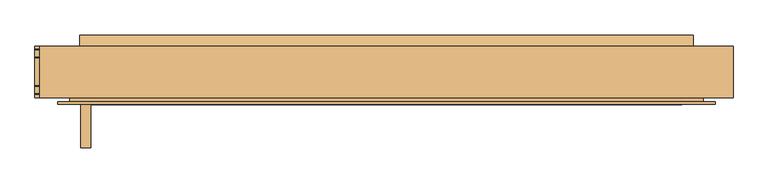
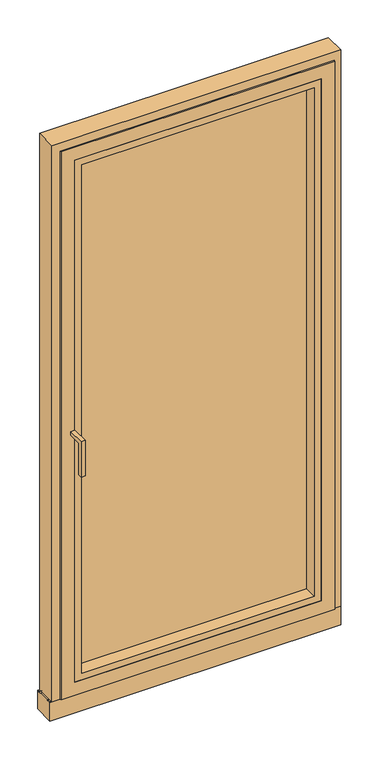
"""IFC4 building model written with IfcOpenShell, lengths in millimetres: door geometry, Reynaers_Masterline 8_Window Door_Inward Opening_Single Vent : Reynaers_Masterline 8_Window Door_Inward Opening_Single Vent."""

from ifc_helpers import new_model, si_unit, point, frame, frame_2d, origin, place, context, project, spatial, polyline, circle_curve, trimmed, segment, composite_curve, outline, extrude, faceted_brep, source, transform, mapped, element, save


def door_001576ba(model_context):
    return source(origin(), model_context, "Body", "SolidModel", [
        extrude(outline(polyline([(-7.0, 1001.0), (-57.0, 1001.0), (-57.0, 881.0), (-72.0, 881.0), (-72.0, 1016.0), (-7.0, 1016.0), (-7.0, 1001.0)])), frame((-458.0, 0.0, 0.0), z_axis=(1.0, 0.0, 0.0), x_axis=(0.0, 1.0, 0.0)), (0.0, 0.0, 1.0), 15.0),
        extrude(outline(polyline([(80.0, 21.1702749), (73.6, 21.7302024), (73.6, 27.5), (80.0, 27.5), (80.0, 21.1702749)])), frame((-460.0, 0.0, 0.0), z_axis=(1.0, 0.0, 0.0), x_axis=(0.0, 1.0, 0.0)), (0.0, 0.0, 1.0), 920.0),
        extrude(outline(composite_curve([segment(trimmed(circle_curve(frame_2d((8.2497844, 1.7372389)), 0.7509239), [point((7.4997844, 1.7))], [point((8.9997844, 1.7))], True, "CARTESIAN"), True, "CONTINUOUS"), segment(polyline([(8.9997844, 1.7), (19.3997844, 1.7)]), True, "CONTINUOUS"), segment(trimmed(circle_curve(frame_2d((20.1497844, 1.7372389)), 0.7509239), [point((19.3997844, 1.7))], [point((20.8997844, 1.7))], True, "CARTESIAN"), True, "CONTINUOUS"), segment(polyline([(20.8997844, 1.7), (62.1000001, 1.7)]), True, "CONTINUOUS"), segment(trimmed(circle_curve(frame_2d((62.8500001, 1.7372389)), 0.7509239), [point((62.1000001, 1.7))], [point((63.6000001, 1.7))], True, "CARTESIAN"), True, "CONTINUOUS"), segment(polyline([(63.6000001, 1.7), (74.0000001, 1.7)]), True, "CONTINUOUS"), segment(trimmed(circle_curve(frame_2d((74.7500001, 1.7372388)), 0.7509239), [point((74.0000001, 1.7))], [point((75.5000001, 1.7))], True, "CARTESIAN"), True, "CONTINUOUS"), segment(polyline([(75.5000001, 1.7), (80.0, 1.7), (80.0, -68.3), (2.9997844, -68.3), (2.9997844, 1.7), (7.4997844, 1.7)]), True, "CONTINUOUS")], self_intersect=False)), frame((-527.0, 0.0, 0.0), z_axis=(1.0, 0.0, 0.0), x_axis=(0.0, 1.0, 0.0)), (0.0, 0.0, 1.0), 1047.0),
        extrude(outline(composite_curve([segment(polyline([(62.0000001, 22.7450709), (80.0, 21.1702749), (80.0, 1.7), (75.5000001, 1.7)]), True, "CONTINUOUS"), segment(trimmed(circle_curve(frame_2d((74.7500001, 1.7372388)), 0.7509239), [point((75.5000001, 1.7))], [point((74.0000001, 1.7))], False, "CARTESIAN"), True, "CONTINUOUS"), segment(polyline([(74.0000001, 1.7), (63.6000001, 1.7)]), True, "CONTINUOUS"), segment(trimmed(circle_curve(frame_2d((62.8500001, 1.7372389)), 0.7509239), [point((63.6000001, 1.7))], [point((62.1000001, 1.7))], False, "CARTESIAN"), True, "CONTINUOUS"), segment(polyline([(62.1000001, 1.7), (20.8997844, 1.7)]), True, "CONTINUOUS"), segment(trimmed(circle_curve(frame_2d((20.1497844, 1.7372389)), 0.7509239), [point((20.8997844, 1.7))], [point((19.3997844, 1.7))], False, "CARTESIAN"), True, "CONTINUOUS"), segment(polyline([(19.3997844, 1.7), (8.9997844, 1.7)]), True, "CONTINUOUS"), segment(trimmed(circle_curve(frame_2d((8.2497844, 1.7372389)), 0.7509239), [point((8.9997844, 1.7))], [point((7.4997844, 1.7))], False, "CARTESIAN"), True, "CONTINUOUS"), segment(polyline([(7.4997844, 1.7), (2.9997844, 1.7), (2.9997844, 12.9999426), (62.0000001, 12.9999426), (62.0000001, 22.7450709)]), True, "CONTINUOUS")], self_intersect=False)), frame((-460.0, 0.0, 0.0), z_axis=(1.0, 0.0, 0.0), x_axis=(0.0, 1.0, 0.0)), (0.0, 0.0, 1.0), 920.0),
        extrude(outline(composite_curve([segment(polyline([(97.0, 33.4911328), (97.0, 28.25)]), True, "CONTINUOUS"), segment(trimmed(circle_curve(frame_2d((96.25, 28.25)), 0.75), [point((97.0, 28.25))], [point((95.5, 28.25))], False, "CARTESIAN"), True, "CONTINUOUS"), segment(polyline([(95.5, 28.25), (95.5, 32.4408215), (80.0, 38.0823601), (80.0, 27.5), (73.6, 27.5), (73.6, 47.0), (80.0, 47.0), (80.0, 39.6786268), (97.0, 33.4911328)]), True, "CONTINUOUS")], self_intersect=False)), frame((-460.0, 0.0, 0.0), z_axis=(1.0, 0.0, 0.0), x_axis=(0.0, 1.0, 0.0)), (0.0, 0.0, 1.0), 920.0),
        faceted_brep([(453.0, 70.0, 47.0), (453.0, 80.0, 47.0), (453.0, 80.0, 2053.0), (453.0, 70.0, 2053.0), (416.0, 80.0, 84.0), (416.0, 72.0, 84.0), (416.0, 72.0, 2016.0), (416.0, 80.0, 2016.0), (-453.0, 80.0, 2053.0), (-453.0, 70.0, 2053.0), (-416.0, 72.0, 2016.0), (-416.0, 80.0, 2016.0), (-453.0, 80.0, 47.0), (-453.0, 70.0, 47.0), (-416.0, 72.0, 84.0), (-416.0, 80.0, 84.0), (493.0, -7.0, 2093.0), (-493.0, -7.0, 2093.0), (-493.0, -7.0, 7.0), (493.0, -7.0, 7.0), (443.0, -7.0, 57.0), (-443.0, -7.0, 57.0), (-443.0, -7.0, 2043.0), (443.0, -7.0, 2043.0), (443.0, 72.0, 2043.0), (-443.0, 72.0, 2043.0), (-443.0, 72.0, 57.0), (443.0, 72.0, 57.0), (475.0, -3.0, 2075.0), (475.0, 70.0, 2075.0), (-475.0, 70.0, 2075.0), (-475.0, -3.0, 2075.0), (493.0, -3.0, 2093.0), (-493.0, -3.0, 2093.0), (-475.0, 70.0, 25.0), (-475.0, -3.0, 25.0), (-493.0, -3.0, 7.0), (475.0, 70.0, 25.0), (475.0, -3.0, 25.0), (493.0, -3.0, 7.0)], [[[0, 1, 2, 3]], [[4, 5, 6, 7]], [[3, 2, 8, 9]], [[7, 6, 10, 11]], [[9, 8, 12, 13]], [[11, 10, 14, 15]], [[1, 12, 8, 2], [7, 11, 15, 4]], [[13, 12, 1, 0]], [[16, 17, 18, 19], [20, 21, 22, 23]], [[15, 14, 5, 4]], [[24, 23, 22, 25]], [[25, 22, 21, 26]], [[26, 21, 20, 27]], [[27, 20, 23, 24]], [[25, 26, 27, 24], [6, 5, 14, 10]], [[28, 29, 30, 31]], [[16, 32, 33, 17]], [[31, 30, 34, 35]], [[17, 33, 36, 18]], [[35, 34, 37, 38]], [[18, 36, 39, 19]], [[29, 37, 34, 30], [9, 13, 0, 3]], [[38, 37, 29, 28]], [[32, 39, 36, 33], [31, 35, 38, 28]], [[19, 39, 32, 16]]]),
        faceted_brep([(460.0, 80.0, 1.0), (520.0, 80.0, 1.0), (520.0, 3.0, 1.0), (487.0, 3.0, 1.0), (487.0, 76.0, 1.0), (460.0, 76.0, 1.0), (460.0, 80.0, 2060.0), (-460.0, 80.0, 2060.0), (-460.0, 80.0, 1.0), (-520.0, 80.0, 1.0), (-520.0, 80.0, 2120.0), (520.0, 80.0, 2120.0), (520.0, 3.0, 2120.0), (-520.0, 3.0, 2120.0), (-520.0, 3.0, 1.0), (-487.0, 3.0, 1.0), (-487.0, 3.0, 2087.0), (487.0, 3.0, 2087.0), (460.0, 76.0, 2060.0), (-460.0, 76.0, 2060.0), (-460.0, 76.0, 1.0), (-487.0, 76.0, 1.0), (487.0, 76.0, 2087.0), (-487.0, 76.0, 2087.0)], [[[0, 1, 2, 3, 4, 5]], [[1, 0, 6, 7, 8, 9, 10, 11]], [[2, 1, 11, 12]], [[3, 2, 12, 13, 14, 15, 16, 17]], [[0, 5, 18, 6]], [[12, 11, 10, 13]], [[6, 18, 19, 7]], [[8, 20, 21, 15, 14, 9]], [[13, 10, 9, 14]], [[7, 19, 20, 8]], [[22, 17, 16, 23]], [[23, 16, 15, 21]], [[4, 3, 17, 22]], [[5, 4, 22, 23, 21, 20, 19, 18]]]),
        extrude(outline(polyline([(2043.0, -443.0), (57.0, -443.0), (57.0, 443.0), (2043.0, 443.0), (2043.0, -443.0)]), holes=[polyline([(2018.0, 418.0), (82.0, 418.0), (82.0, -418.0), (2018.0, -418.0), (2018.0, 418.0)])]), frame((0.0, -7.0, 0.0), z_axis=(0.0, 1.0, 0.0), x_axis=(0.0, 0.0, 1.0)), (0.0, 0.0, 1.0), 46.0),
        extrude(outline(polyline([(435.0, 45.0), (-435.0, 45.0), (-435.0, 72.0), (435.0, 72.0), (435.0, 45.0)])), frame((0.0, 0.0, 65.0), z_axis=(0.0, 0.0, 1.0), x_axis=(1.0, 0.0, 0.0)), (0.0, 0.0, 1.0), 1970.0),
    ])


if __name__ == "__main__":
    model = new_model("IFC4")
    model_context = context("Model", 3, world=origin())
    ifc_project = project(units=[si_unit("LENGTHUNIT", "METRE", prefix="MILLI")], contexts=[model_context])
    site = spatial("IfcSite", under=ifc_project)
    building = spatial("IfcBuilding", under=site)
    placement = place(None, origin())
    door_shape = door_001576ba(model_context)
    element("IfcDoor", 1, ObjectType="Reynaers_Masterline 8_Window Door_Inward Opening_Single Vent : Reynaers_Masterline 8_Window Door_Inward Opening_Single Vent", at=placement, inside=building, context=model_context, shape_type="MappedRepresentation", body=[
        mapped(door_shape, transform((0.0, 0.0, 0.0), x_axis=(1.0, 0.0, 0.0), y_axis=(0.0, 1.0, 0.0), z_axis=(0.0, 0.0, 1.0))),
    ])
    save(model, "model.ifc")
